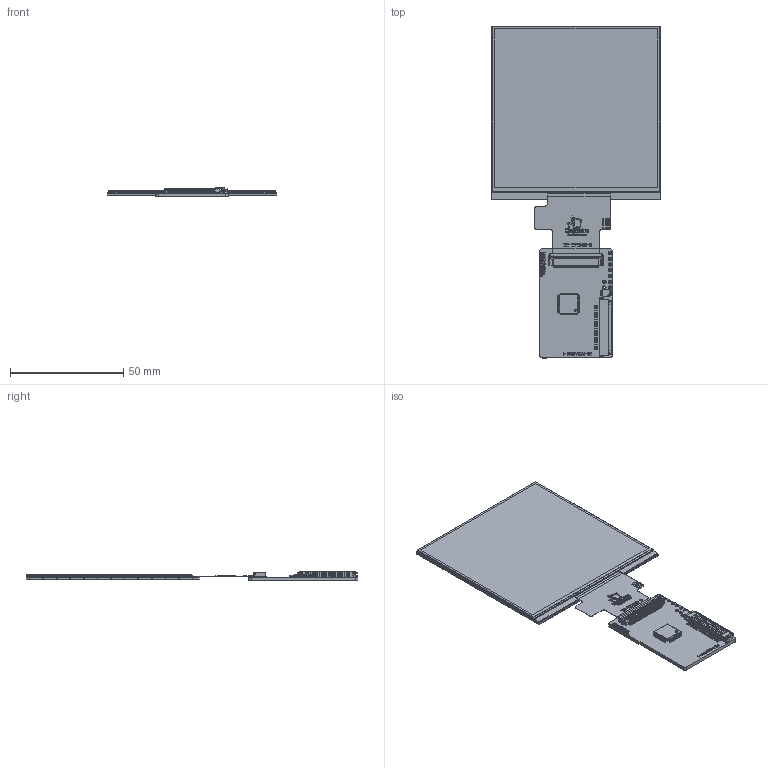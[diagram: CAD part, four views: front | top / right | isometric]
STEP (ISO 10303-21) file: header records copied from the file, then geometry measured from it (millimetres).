
FILE_DESCRIPTION (( 'STEP AP214' ), '1' );
FILE_NAME ('ER-TFT040-3-6011-1.STEP', '2024-08-26T05:56:57', ( '微软用户' ), ( '微软中国' ), 'SwSTEP 2.0', 'SolidWorks 2023', '' );
FILE_SCHEMA (( 'AUTOMOTIVE_DESIGN' ));
Length unit declared in the file: millimetre
Products named in the file (3): ER-TFT040-3-6011-1; ER-TFT040-3; ER-6011-Controller Board
Assembly tree (2 placements, depth 2):
  ER-TFT040-3-6011-1
    ER-6011-Controller Board
    ER-TFT040-3
Bounding box: 74.66 x 146.63 x 4.32 mm (x, y, z)
Volume: 15239.3 mm3; surface area: 31455.2 mm2
Topology: 183 solids, 183 shells, 5545 faces, 16301 edges, 10633 vertices
Faces by surface type: plane 4097, cylinder 729, bspline 719
Entity records: 272527 total; most frequent: CARTESIAN_POINT 69721, ORIENTED_EDGE 32572, DIRECTION 25464, EDGE_CURVE 16286, VECTOR 13162, LINE 13162, VERTEX_POINT 10633, AXIS2_PLACEMENT_3D 6151
